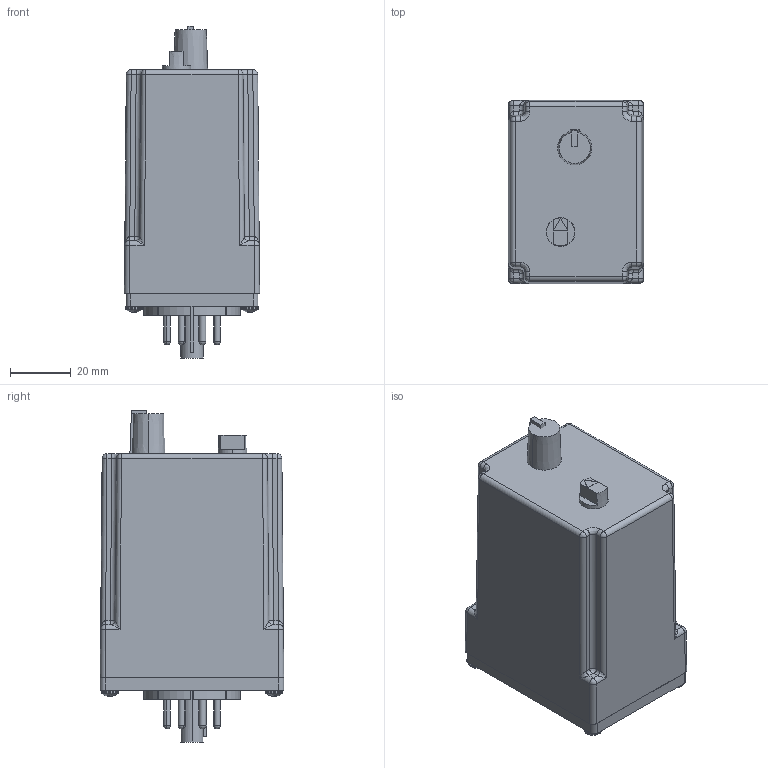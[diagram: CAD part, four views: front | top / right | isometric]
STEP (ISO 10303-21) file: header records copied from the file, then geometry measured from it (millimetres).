
FILE_DESCRIPTION (( 'STEP AP214' ), '1' );
FILE_NAME ('TR-6 Trueoff.STEP', '2019-05-21T00:52:41', ( '' ), ( '' ), 'SwSTEP 2.0', 'SolidWorks 2019', '' );
FILE_SCHEMA (( 'AUTOMOTIVE_DESIGN' ));
Length unit declared in the file: millimetre
Products named in the file (1): TR-6 Trueoff
Bounding box: 44.45 x 60.33 x 109.09 mm (x, y, z)
Volume: 202137.8 mm3; surface area: 29917.4 mm2
Topology: 17 solids, 17 shells, 702 faces, 1843 edges, 1172 vertices
Faces by surface type: cylinder 280, plane 236, bspline 114, cone 44, sphere 28
Entity records: 32530 total; most frequent: CARTESIAN_POINT 16600, ORIENTED_EDGE 3590, DIRECTION 2658, EDGE_CURVE 1795, VERTEX_POINT 1156, AXIS2_PLACEMENT_3D 930, VECTOR 798, LINE 798
